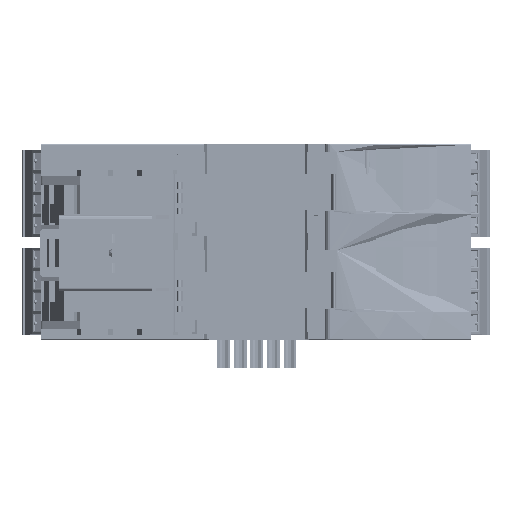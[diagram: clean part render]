
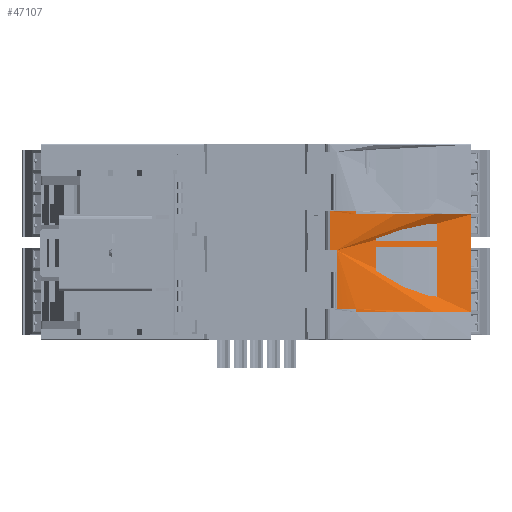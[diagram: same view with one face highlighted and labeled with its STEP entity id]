
A CAD part, top view. The second image highlights one B-rep face of the part: STEP entity #47107.
In plain terms, the highlighted cylindrical face has radius 77.596 mm (diameter 155.192 mm), a partial arc.
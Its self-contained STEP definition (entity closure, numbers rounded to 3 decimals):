
#47107=ADVANCED_FACE('',(#226783),#226785,.T.);
#226783=FACE_BOUND('',#226784,.T.);
#226784=EDGE_LOOP('',(#375872,#375873,#375874,#375875,#375876,#375877,#375878,#375879,
#375880,#375881));
#226785=CYLINDRICAL_SURFACE('',#226786,77.596);
#226786=AXIS2_PLACEMENT_3D('',#226787,#226788,#226789);
#226787=CARTESIAN_POINT('',(16.,-0.1,-77.596));
#226788=DIRECTION('',(0.,1.,0.));
#226789=DIRECTION('',(1.,0.,0.));
#375872=ORIENTED_EDGE('',*,*,#492001,.T.);
#375873=ORIENTED_EDGE('',*,*,#492002,.F.);
#375874=ORIENTED_EDGE('',*,*,#492003,.T.);
#375875=ORIENTED_EDGE('',*,*,#492004,.F.);
#375876=ORIENTED_EDGE('',*,*,#488268,.T.);
#375877=ORIENTED_EDGE('',*,*,#492005,.F.);
#375878=ORIENTED_EDGE('',*,*,#488220,.F.);
#375879=ORIENTED_EDGE('',*,*,#492000,.T.);
#375880=ORIENTED_EDGE('',*,*,#492006,.F.);
#375881=ORIENTED_EDGE('',*,*,#492007,.T.);
#488220=EDGE_CURVE('',#557889,#557891,#557892,.T.);
#488268=EDGE_CURVE('',#557985,#557983,#557986,.T.);
#492000=EDGE_CURVE('',#557889,#564150,#564152,.T.);
#492001=EDGE_CURVE('',#564153,#564154,#564155,.T.);
#492002=EDGE_CURVE('',#564156,#564154,#564157,.T.);
#492003=EDGE_CURVE('',#564156,#564158,#564159,.T.);
#492004=EDGE_CURVE('',#557985,#564158,#564160,.T.);
#492005=EDGE_CURVE('',#557891,#557983,#564161,.T.);
#492006=EDGE_CURVE('',#564162,#564150,#564163,.T.);
#492007=EDGE_CURVE('',#564162,#564153,#564164,.T.);
#557889=VERTEX_POINT('',#699960);
#557891=VERTEX_POINT('',#699964);
#557892=CIRCLE('',#699965,77.596);
#557983=VERTEX_POINT('',#700158);
#557985=VERTEX_POINT('',#700163);
#557986=CIRCLE('',#700164,77.596);
#564150=VERTEX_POINT('',#715673);
#564152=LINE('',#715677,#715678);
#564153=VERTEX_POINT('',#715680);
#564154=VERTEX_POINT('',#715681);
#564155=CIRCLE('',#715682,77.596);
#564156=VERTEX_POINT('',#715686);
#564157=LINE('',#715687,#715688);
#564158=VERTEX_POINT('',#715690);
#564159=CIRCLE('',#715691,77.596);
#564160=LINE('',#715695,#715696);
#564161=LINE('',#715698,#715699);
#564162=VERTEX_POINT('',#715701);
#564163=CIRCLE('',#715702,77.596);
#564164=LINE('',#715706,#715707);
#699960=CARTESIAN_POINT('',(23.,28.8,-0.316));
#699964=CARTESIAN_POINT('',(49.587,28.8,-7.645));
#699965=AXIS2_PLACEMENT_3D('',#699966,#699967,#699968);
#699966=CARTESIAN_POINT('',(16.,28.8,-77.596));
#699967=DIRECTION('',(0.,1.,0.));
#699968=DIRECTION('',(0.09,0.,0.996));
#700158=CARTESIAN_POINT('',(49.587,6.2,-7.645));
#700163=CARTESIAN_POINT('',(23.1,6.2,-0.326));
#700164=AXIS2_PLACEMENT_3D('',#700165,#700166,#700167);
#700165=CARTESIAN_POINT('',(16.,6.2,-77.596));
#700166=DIRECTION('',(0.,1.,0.));
#700167=DIRECTION('',(0.091,0.,0.996));
#715673=CARTESIAN_POINT('',(23.,29.6,-0.316));
#715677=CARTESIAN_POINT('',(23.,28.8,-0.316));
#715678=VECTOR('',#715679,1.);
#715679=DIRECTION('',(0.,1.,0.));
#715680=CARTESIAN_POINT('',(17.013,20.5,-0.007));
#715681=CARTESIAN_POINT('',(18.6,20.5,-0.044));
#715682=AXIS2_PLACEMENT_3D('',#715683,#715684,#715685);
#715683=CARTESIAN_POINT('',(16.,20.5,-77.596));
#715684=DIRECTION('',(0.,1.,0.));
#715685=DIRECTION('',(0.013,0.,1.));
#715686=CARTESIAN_POINT('',(18.6,7.,-0.044));
#715687=CARTESIAN_POINT('',(18.6,7.,-0.044));
#715688=VECTOR('',#715689,1.);
#715689=DIRECTION('',(0.,1.,0.));
#715690=CARTESIAN_POINT('',(23.1,7.,-0.326));
#715691=AXIS2_PLACEMENT_3D('',#715692,#715693,#715694);
#715692=CARTESIAN_POINT('',(16.,7.,-77.596));
#715693=DIRECTION('',(0.,1.,0.));
#715694=DIRECTION('',(0.034,0.,0.999));
#715695=CARTESIAN_POINT('',(23.1,6.2,-0.326));
#715696=VECTOR('',#715697,1.);
#715697=DIRECTION('',(0.,1.,0.));
#715698=CARTESIAN_POINT('',(49.587,28.8,-7.645));
#715699=VECTOR('',#715700,1.);
#715700=DIRECTION('',(0.,-1.,0.));
#715701=CARTESIAN_POINT('',(17.013,29.6,-0.007));
#715702=AXIS2_PLACEMENT_3D('',#715703,#715704,#715705);
#715703=CARTESIAN_POINT('',(16.,29.6,-77.596));
#715704=DIRECTION('',(0.,1.,0.));
#715705=DIRECTION('',(0.013,0.,1.));
#715706=CARTESIAN_POINT('',(17.013,29.6,-0.007));
#715707=VECTOR('',#715708,1.);
#715708=DIRECTION('',(0.,-1.,0.));
